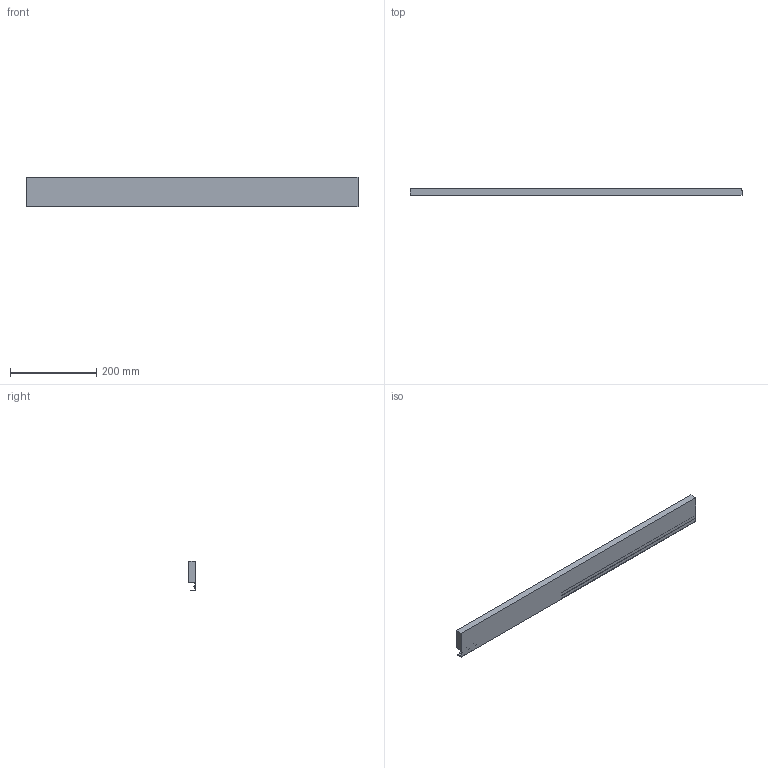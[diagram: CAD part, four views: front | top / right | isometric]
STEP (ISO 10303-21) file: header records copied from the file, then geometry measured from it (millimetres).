
FILE_DESCRIPTION (( 'STEP AP214' ), '1' );
FILE_NAME ('Innenschub-Blendenprofil_KAB900_S19.step', '2010-09-23T12:27:12', ( 'grass' ), ( '' ), 'SwSTEP 2.0', 'SolidWorks 2010', '' );
FILE_SCHEMA (( 'AUTOMOTIVE_DESIGN' ));
Length unit declared in the file: millimetre
Products named in the file (1): Innenschub-Blendenprofil_KAB900_S19
Bounding box: 771 x 15.9 x 67.6 mm (x, y, z)
Volume: 639288.8 mm3; surface area: 152963.2 mm2
Topology: 1 solids, 1 shells, 17 faces, 42 edges, 28 vertices
Faces by surface type: plane 15, cylinder 2
Entity records: 534 total; most frequent: CARTESIAN_POINT 88, ORIENTED_EDGE 84, DIRECTION 82, EDGE_CURVE 42, VECTOR 38, LINE 38, VERTEX_POINT 28, AXIS2_PLACEMENT_3D 22
